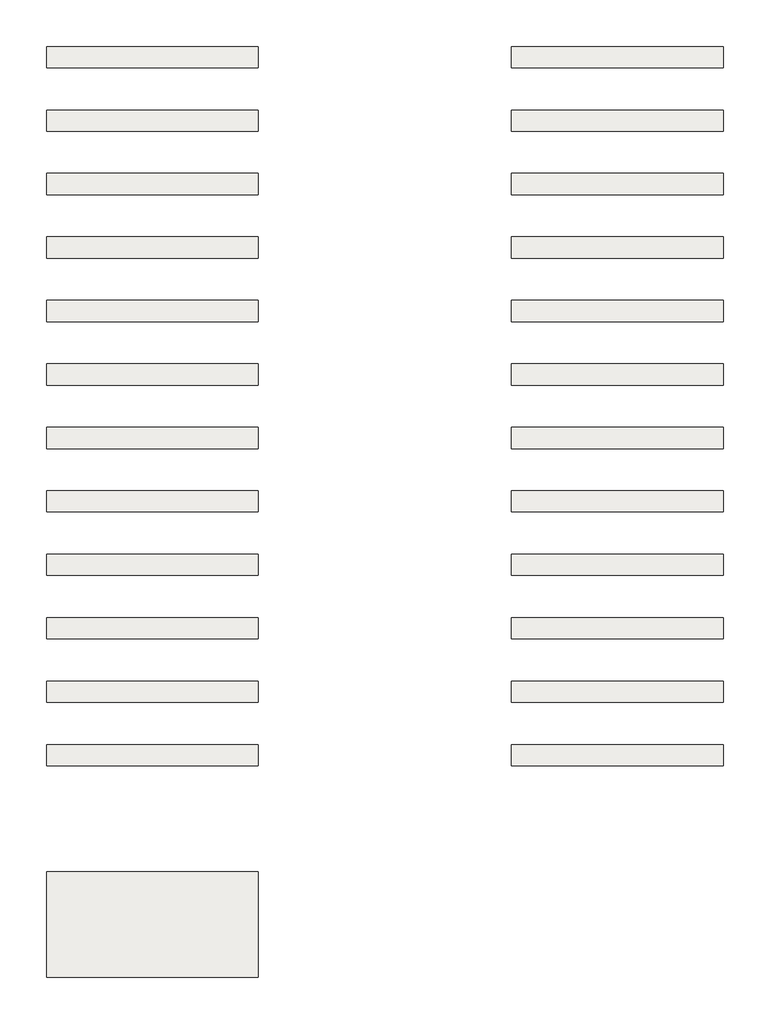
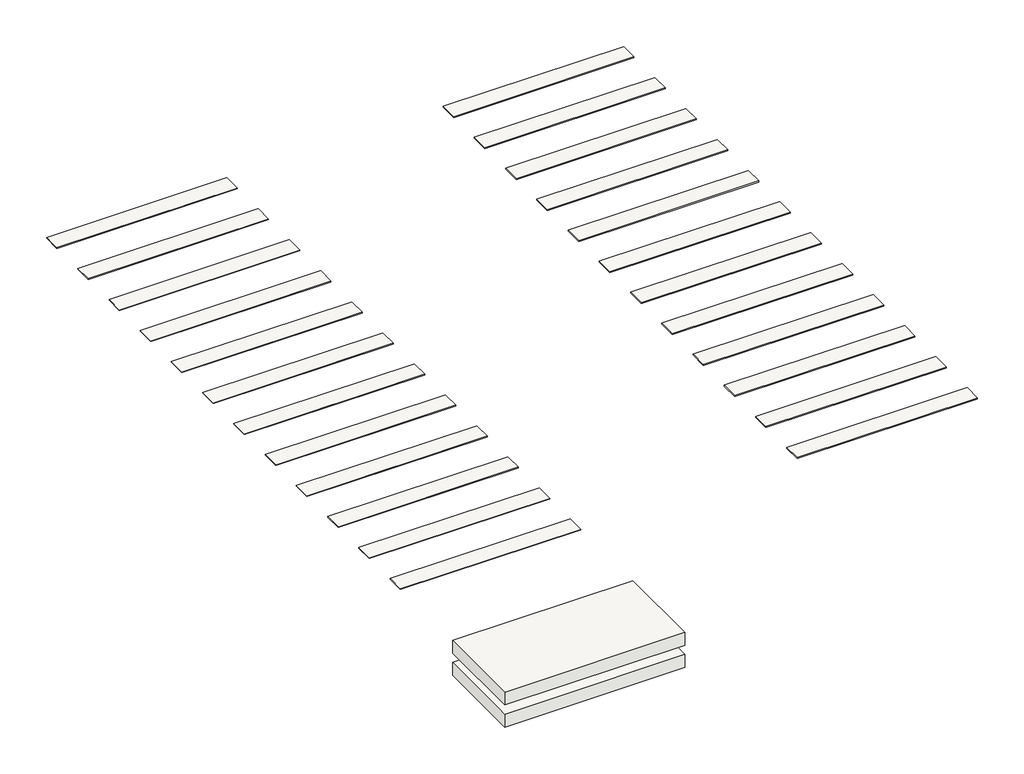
# One storey: 26 coverings.
"""IFC4 building model written with IfcOpenShell, lengths in millimetres."""

import ifcopenshell
import ifcopenshell.guid

model = None  # the IFC model being written
_history = None  # IfcOwnerHistory: only IFC2X3 demands one
_inside = {}  # id of a spatial element -> (the spatial element, [elements in it])
_under = {}  # id of a project, library or spatial element -> (it, [spatial elements below it])
_declared = {}  # id of a project -> (the project, [libraries it declares])
_typed = {}  # id of a type object -> (the type object, [elements of that type])
_made_of = {}  # id of a material, layer set ... -> (it, [elements and type objects made of it])


def new_model(schema):
    """Start an empty IFC model of exactly this schema.

    Asked for "IFC4X3", IfcOpenShell would pick the latest addendum, in which some entities
    have other attributes; the version numbers below select the first issue.
    IFC2X3 requires an IfcOwnerHistory on every rooted entity: one is made here for all.
    """
    global model, _history
    if schema == "IFC4X3":
        model = ifcopenshell.file(schema_version=(4, 3, 0, 0))
    else:
        model = ifcopenshell.file(schema=schema)
    _inside.clear()
    _under.clear()
    _declared.clear()
    _typed.clear()
    _made_of.clear()
    _history = None
    if model.schema == "IFC2X3":
        org = make("IfcOrganization", Name="unknown")
        user = make(
            "IfcPersonAndOrganization",
            ThePerson=make("IfcPerson", FamilyName="unknown"),
            TheOrganization=org,
        )
        app = make(
            "IfcApplication",
            ApplicationDeveloper=org,
            Version="unknown",
            ApplicationFullName="unknown",
            ApplicationIdentifier="unknown",
        )
        _history = make(
            "IfcOwnerHistory",
            OwningUser=user,
            OwningApplication=app,
            ChangeAction="ADDED",
            CreationDate=0,
        )
    return model


def make(cls, **values):
    """One entity of the class cls with the attributes given. An attribute that is None is left unset."""
    return model.create_entity(
        cls, **{name: value for name, value in values.items() if value is not None}
    )


def rooted(cls, **values):
    """An entity with a GlobalId (a new one), such as an element, a storey or a relation."""
    return make(cls, GlobalId=ifcopenshell.guid.new(), OwnerHistory=_history, **values)


def si_unit(unit_type, name, prefix=None):
    """IfcSIUnit, for example si_unit("LENGTHUNIT", "METRE", prefix="MILLI")."""
    return make("IfcSIUnit", UnitType=unit_type, Prefix=prefix, Name=name)


def assignment(units):
    """IfcUnitAssignment: the units of a project."""
    return None if units is None else make("IfcUnitAssignment", Units=units)


def point(xyz):
    """IfcCartesianPoint."""
    return None if xyz is None else make("IfcCartesianPoint", Coordinates=xyz)


def direction(xyz):
    """IfcDirection."""
    return None if xyz is None else make("IfcDirection", DirectionRatios=xyz)


def frame(location, z_axis=None, x_axis=None):
    """IfcAxis2Placement3D, a coordinate frame: its origin and axes. An axis left out is left unset."""
    return make(
        "IfcAxis2Placement3D",
        Location=point(location),
        Axis=direction(z_axis),
        RefDirection=direction(x_axis),
    )


def origin():
    """The frame at (0, 0, 0) with its axes left unset."""
    return frame((0.0, 0.0, 0.0))


def place(relative_to, where):
    """IfcLocalPlacement: puts the frame where relative to a parent placement (None: the world)."""
    return make(
        "IfcLocalPlacement", PlacementRelTo=relative_to, RelativePlacement=where
    )


def context(
    kind, dimensions, precision=None, world=None, true_north=None, identifier=None
):
    """IfcGeometricRepresentationContext, for example the 3D "Model" context."""
    return make(
        "IfcGeometricRepresentationContext",
        ContextIdentifier=identifier,
        ContextType=kind,
        CoordinateSpaceDimension=dimensions,
        Precision=precision,
        WorldCoordinateSystem=world,
        TrueNorth=true_north,
    )


def project(units=None, contexts=None):
    """IfcProject with its units and contexts."""
    return rooted(
        "IfcProject",
        Name="project",
        RepresentationContexts=contexts,
        UnitsInContext=assignment(units),
    )


def spatial(cls, under=None, at=None, **own):
    """A site, building, storey or space (cls), placed at a placement, below another one or the project."""
    s = rooted(cls, ObjectPlacement=at, **own)
    if under is not None:
        _under.setdefault(under.id(), (under, []))[1].append(s)
    return s


def polyline(points):
    """IfcPolyline through the points."""
    return make("IfcPolyline", Points=[point(p) for p in points])


def outline(outer, holes=None, kind="AREA"):
    """IfcArbitraryClosedProfileDef: a profile drawn as a closed curve; with holes, ...WithVoids."""
    if holes is None:
        return make("IfcArbitraryClosedProfileDef", ProfileType=kind, OuterCurve=outer)
    return make(
        "IfcArbitraryProfileDefWithVoids",
        ProfileType=kind,
        OuterCurve=outer,
        InnerCurves=holes,
    )


def extrude(swept, where, along, depth):
    """IfcExtrudedAreaSolid: the profile swept, set in the frame where, extruded along a direction by depth."""
    return make(
        "IfcExtrudedAreaSolid",
        SweptArea=swept,
        Position=where,
        ExtrudedDirection=direction(along),
        Depth=depth,
    )


def shape(context_of_items, identifier, shape_type, items):
    """IfcShapeRepresentation: the items that make up one representation, for example the "Body"."""
    return make(
        "IfcShapeRepresentation",
        ContextOfItems=context_of_items,
        RepresentationIdentifier=identifier,
        RepresentationType=shape_type,
        Items=items,
    )


def made_of(thing, what):
    """Note that an element or type object is made of a material, layer set ...; save() writes the relation."""
    if what is not None:
        _made_of.setdefault(what.id(), (what, []))[1].append(thing)
    return thing


def element(
    cls,
    number,
    at=None,
    inside=None,
    cuts=None,
    type_object=None,
    material=None,
    context=None,
    identifier="Body",
    shape_type=None,
    held_by="IfcProductDefinitionShape",
    body=None,
    shapes=None,
    **own,
):
    """One element of the class cls, such as IfcWall. Its Tag is "e" and its number.

    at: its placement. inside: the storey or other place that contains it. cuts: it is an
    opening in that element (IfcRelVoidsElement). A single representation is given by context,
    identifier, shape_type and body (its items); several are given by shapes. held_by: the class
    of the entity that holds the representations. save() writes the other relations.
    """
    e = rooted(cls, Tag="e%d" % number, ObjectPlacement=at, **own)
    if body is not None:
        shapes = [shape(context, identifier, shape_type, body)]
    if shapes is not None:
        e.Representation = make(held_by, Representations=shapes)
    if inside is not None:
        _inside.setdefault(inside.id(), (inside, []))[1].append(e)
    if cuts is not None:
        rooted(
            "IfcRelVoidsElement", RelatingBuildingElement=cuts, RelatedOpeningElement=e
        )
    if type_object is not None:
        _typed.setdefault(type_object.id(), (type_object, []))[1].append(e)
    return made_of(e, material)


def aggregate(whole, parts):
    """IfcRelAggregates: a whole, such as a stair, and the parts it consists of."""
    return rooted("IfcRelAggregates", RelatingObject=whole, RelatedObjects=parts)


def save(model, path):
    """Write the relations noted so far, then the file.

    IfcRelAggregates (storeys below a building ...), IfcRelContainedInSpatialStructure (elements
    in a storey), IfcRelDefinesByType, IfcRelAssociatesMaterial and IfcRelDeclares: one each for
    every whole, place, type object, material and project.
    """
    for whole, parts in _under.values():
        aggregate(whole, parts)
    for where, things in _inside.values():
        rooted(
            "IfcRelContainedInSpatialStructure",
            RelatedElements=things,
            RelatingStructure=where,
        )
    for kind, things in _typed.values():
        rooted("IfcRelDefinesByType", RelatedObjects=things, RelatingType=kind)
    for what, things in _made_of.values():
        rooted("IfcRelAssociatesMaterial", RelatedObjects=things, RelatingMaterial=what)
    for by, libraries in _declared.values():
        rooted("IfcRelDeclares", RelatingContext=by, RelatedDefinitions=libraries)
    model.write(path)


model = new_model("IFC4")

# Units and contexts
model_context = context("Model", 3, world=origin())
ifc_project = project(units=[si_unit("LENGTHUNIT", "METRE", prefix="MILLI")], contexts=[model_context])

# Site, building, storey
site = spatial("IfcSite", under=ifc_project)
building = spatial("IfcBuilding", under=site)
storey = spatial("IfcBuildingStorey", under=building, Name="Sika® Ucrete® CS10 en sustrato", Elevation=0.0)

# Coverings
placement = place(None, origin())
element("IfcCovering", 1, ObjectType="Sika® Ucrete® CS10 4 mm en suelo de hormigón", at=placement, inside=storey, context=model_context, shape_type="SweptSolid", body=[
    extrude(outline(polyline([(2928.6266869, 3777.4105026), (2928.6266869, 3277.4105026), (1928.6266869, 3277.4105026), (1928.6266869, 3777.4105026), (2928.6266869, 3777.4105026)])), frame((0.0, 0.0, -74.0), z_axis=(0.0, 0.0, 1.0), x_axis=(1.0, 0.0, 0.0)), (0.0, 0.0, 1.0), 74.0),
])
element("IfcCovering", 2, ObjectType="Sika® Ucrete® CS10 4 mm (Cream)", at=placement, inside=storey, context=model_context, shape_type="SweptSolid", body=[
    extrude(outline(polyline([(2928.6266869, 6477.4105026), (2928.6266869, 6377.4105026), (1928.6266869, 6377.4105026), (1928.6266869, 6477.4105026), (2928.6266869, 6477.4105026)])), frame((0.0, 0.0, -4.0), z_axis=(0.0, 0.0, 1.0), x_axis=(1.0, 0.0, 0.0)), (0.0, 0.0, 1.0), 4.0),
])
element("IfcCovering", 3, ObjectType="Sika® Ucrete® CS10 4 mm (Bright Yellow)", at=placement, inside=storey, context=model_context, shape_type="SweptSolid", body=[
    extrude(outline(polyline([(2928.6266869, 6777.4105026), (2928.6266869, 6677.4105026), (1928.6266869, 6677.4105026), (1928.6266869, 6777.4105026), (2928.6266869, 6777.4105026)])), frame((0.0, 0.0, -4.0), z_axis=(0.0, 0.0, 1.0), x_axis=(1.0, 0.0, 0.0)), (0.0, 0.0, 1.0), 4.0),
])
element("IfcCovering", 4, ObjectType="Sika® Ucrete® CS10 4 mm (Yellow)", at=placement, inside=storey, context=model_context, shape_type="SweptSolid", body=[
    extrude(outline(polyline([(2928.6266869, 7077.4105026), (2928.6266869, 6977.4105026), (1928.6266869, 6977.4105026), (1928.6266869, 7077.4105026), (2928.6266869, 7077.4105026)])), frame((0.0, 0.0, -4.0), z_axis=(0.0, 0.0, 1.0), x_axis=(1.0, 0.0, 0.0)), (0.0, 0.0, 1.0), 4.0),
])
element("IfcCovering", 5, ObjectType="Sika® Ucrete® CS10 4 mm (Orange)", at=placement, inside=storey, context=model_context, shape_type="SweptSolid", body=[
    extrude(outline(polyline([(2928.6266869, 7377.4105026), (2928.6266869, 7277.4105026), (1928.6266869, 7277.4105026), (1928.6266869, 7377.4105026), (2928.6266869, 7377.4105026)])), frame((0.0, 0.0, -4.0), z_axis=(0.0, 0.0, 1.0), x_axis=(1.0, 0.0, 0.0)), (0.0, 0.0, 1.0), 4.0),
])
element("IfcCovering", 6, ObjectType="Sika® Ucrete® CS10 4 mm (Red)", at=placement, inside=storey, context=model_context, shape_type="SweptSolid", body=[
    extrude(outline(polyline([(2928.6266869, 7677.4105026), (2928.6266869, 7577.4105026), (1928.6266869, 7577.4105026), (1928.6266869, 7677.4105026), (2928.6266869, 7677.4105026)])), frame((0.0, 0.0, -4.0), z_axis=(0.0, 0.0, 1.0), x_axis=(1.0, 0.0, 0.0)), (0.0, 0.0, 1.0), 4.0),
])
element("IfcCovering", 7, ObjectType="Sika® Ucrete® CS10 6 mm en sustrato", at=placement, inside=storey, context=model_context, shape_type="SweptSolid", body=[
    extrude(outline(polyline([(2928.6266869, 3777.4105026), (2928.6266869, 3277.4105026), (1928.6266869, 3277.4105026), (1928.6266869, 3777.4105026), (2928.6266869, 3777.4105026)])), frame((0.0, 0.0, -204.75), z_axis=(0.0, 0.0, 1.0), x_axis=(1.0, 0.0, 0.0)), (0.0, 0.0, 1.0), 76.0),
])
element("IfcCovering", 8, ObjectType="Sika® Ucrete® CS10 4 mm (Grey)", at=placement, inside=storey, context=model_context, shape_type="SweptSolid", body=[
    extrude(outline(polyline([(2928.6266869, 6177.4105026), (2928.6266869, 6077.4105026), (1928.6266869, 6077.4105026), (1928.6266869, 6177.4105026), (2928.6266869, 6177.4105026)])), frame((0.0, 0.0, -4.0), z_axis=(0.0, 0.0, 1.0), x_axis=(1.0, 0.0, 0.0)), (0.0, 0.0, 1.0), 4.0),
])
element("IfcCovering", 9, ObjectType="Sika® Ucrete® CS10 4 mm (Light Grey)", at=placement, inside=storey, context=model_context, shape_type="SweptSolid", body=[
    extrude(outline(polyline([(2928.6266869, 5877.4105026), (2928.6266869, 5777.4105026), (1928.6266869, 5777.4105026), (1928.6266869, 5877.4105026), (2928.6266869, 5877.4105026)])), frame((0.0, 0.0, -4.0), z_axis=(0.0, 0.0, 1.0), x_axis=(1.0, 0.0, 0.0)), (0.0, 0.0, 1.0), 4.0),
])
element("IfcCovering", 10, ObjectType="Sika® Ucrete® CS10 4 mm (Green)", at=placement, inside=storey, context=model_context, shape_type="SweptSolid", body=[
    extrude(outline(polyline([(2928.6266869, 5577.4105026), (2928.6266869, 5477.4105026), (1928.6266869, 5477.4105026), (1928.6266869, 5577.4105026), (2928.6266869, 5577.4105026)])), frame((0.0, 0.0, -4.0), z_axis=(0.0, 0.0, 1.0), x_axis=(1.0, 0.0, 0.0)), (0.0, 0.0, 1.0), 4.0),
])
element("IfcCovering", 11, ObjectType="Sika® Ucrete® CS10 4 mm (Light Green)", at=placement, inside=storey, context=model_context, shape_type="SweptSolid", body=[
    extrude(outline(polyline([(2928.6266869, 5277.4105026), (2928.6266869, 5177.4105026), (1928.6266869, 5177.4105026), (1928.6266869, 5277.4105026), (2928.6266869, 5277.4105026)])), frame((0.0, 0.0, -4.0), z_axis=(0.0, 0.0, 1.0), x_axis=(1.0, 0.0, 0.0)), (0.0, 0.0, 1.0), 4.0),
])
element("IfcCovering", 12, ObjectType="Sika® Ucrete® CS10 4 mm (Green/Brown)", at=placement, inside=storey, context=model_context, shape_type="SweptSolid", body=[
    extrude(outline(polyline([(2928.6266869, 4977.4105026), (2928.6266869, 4877.4105026), (1928.6266869, 4877.4105026), (1928.6266869, 4977.4105026), (2928.6266869, 4977.4105026)])), frame((0.0, 0.0, -4.0), z_axis=(0.0, 0.0, 1.0), x_axis=(1.0, 0.0, 0.0)), (0.0, 0.0, 1.0), 4.0),
])
element("IfcCovering", 13, ObjectType="Sika® Ucrete® CS10 6 mm (Cream)", at=placement, inside=storey, context=model_context, shape_type="SweptSolid", body=[
    extrude(outline(polyline([(5128.6266869, 6477.4105026), (5128.6266869, 6377.4105026), (4128.6266869, 6377.4105026), (4128.6266869, 6477.4105026), (5128.6266869, 6477.4105026)])), frame((0.0, 0.0, -6.0), z_axis=(0.0, 0.0, 1.0), x_axis=(1.0, 0.0, 0.0)), (0.0, 0.0, 1.0), 6.0),
])
element("IfcCovering", 14, ObjectType="Sika® Ucrete® CS10 6 mm (Bright Yellow)", at=placement, inside=storey, context=model_context, shape_type="SweptSolid", body=[
    extrude(outline(polyline([(5128.6266869, 6777.4105026), (5128.6266869, 6677.4105026), (4128.6266869, 6677.4105026), (4128.6266869, 6777.4105026), (5128.6266869, 6777.4105026)])), frame((0.0, 0.0, -6.0), z_axis=(0.0, 0.0, 1.0), x_axis=(1.0, 0.0, 0.0)), (0.0, 0.0, 1.0), 6.0),
])
element("IfcCovering", 15, ObjectType="Sika® Ucrete® CS10 6 mm (Yellow)", at=placement, inside=storey, context=model_context, shape_type="SweptSolid", body=[
    extrude(outline(polyline([(5128.6266869, 7077.4105026), (5128.6266869, 6977.4105026), (4128.6266869, 6977.4105026), (4128.6266869, 7077.4105026), (5128.6266869, 7077.4105026)])), frame((0.0, 0.0, -6.0), z_axis=(0.0, 0.0, 1.0), x_axis=(1.0, 0.0, 0.0)), (0.0, 0.0, 1.0), 6.0),
])
element("IfcCovering", 16, ObjectType="Sika® Ucrete® CS10 6 mm (Orange)", at=placement, inside=storey, context=model_context, shape_type="SweptSolid", body=[
    extrude(outline(polyline([(5128.6266869, 7377.4105026), (5128.6266869, 7277.4105026), (4128.6266869, 7277.4105026), (4128.6266869, 7377.4105026), (5128.6266869, 7377.4105026)])), frame((0.0, 0.0, -6.0), z_axis=(0.0, 0.0, 1.0), x_axis=(1.0, 0.0, 0.0)), (0.0, 0.0, 1.0), 6.0),
])
element("IfcCovering", 17, ObjectType="Sika® Ucrete® CS10 6 mm (Red)", at=placement, inside=storey, context=model_context, shape_type="SweptSolid", body=[
    extrude(outline(polyline([(5128.6266869, 7677.4105026), (5128.6266869, 7577.4105026), (4128.6266869, 7577.4105026), (4128.6266869, 7677.4105026), (5128.6266869, 7677.4105026)])), frame((0.0, 0.0, -6.0), z_axis=(0.0, 0.0, 1.0), x_axis=(1.0, 0.0, 0.0)), (0.0, 0.0, 1.0), 6.0),
])
element("IfcCovering", 18, ObjectType="Sika® Ucrete® CS10 6 mm (Grey)", at=placement, inside=storey, context=model_context, shape_type="SweptSolid", body=[
    extrude(outline(polyline([(5128.6266869, 6177.4105026), (5128.6266869, 6077.4105026), (4128.6266869, 6077.4105026), (4128.6266869, 6177.4105026), (5128.6266869, 6177.4105026)])), frame((0.0, 0.0, -6.0), z_axis=(0.0, 0.0, 1.0), x_axis=(1.0, 0.0, 0.0)), (0.0, 0.0, 1.0), 6.0),
])
element("IfcCovering", 19, ObjectType="Sika® Ucrete® CS10 6 mm (Light Grey)", at=placement, inside=storey, context=model_context, shape_type="SweptSolid", body=[
    extrude(outline(polyline([(5128.6266869, 5877.4105026), (5128.6266869, 5777.4105026), (4128.6266869, 5777.4105026), (4128.6266869, 5877.4105026), (5128.6266869, 5877.4105026)])), frame((0.0, 0.0, -6.0), z_axis=(0.0, 0.0, 1.0), x_axis=(1.0, 0.0, 0.0)), (0.0, 0.0, 1.0), 6.0),
])
element("IfcCovering", 20, ObjectType="Sika® Ucrete® CS10 6 mm (Green)", at=placement, inside=storey, context=model_context, shape_type="SweptSolid", body=[
    extrude(outline(polyline([(5128.6266869, 5577.4105026), (5128.6266869, 5477.4105026), (4128.6266869, 5477.4105026), (4128.6266869, 5577.4105026), (5128.6266869, 5577.4105026)])), frame((0.0, 0.0, -6.0), z_axis=(0.0, 0.0, 1.0), x_axis=(1.0, 0.0, 0.0)), (0.0, 0.0, 1.0), 6.0),
])
element("IfcCovering", 21, ObjectType="Sika® Ucrete® CS10 6 mm (Green/Brown)", at=placement, inside=storey, context=model_context, shape_type="SweptSolid", body=[
    extrude(outline(polyline([(5128.6266869, 4977.4105026), (5128.6266869, 4877.4105026), (4128.6266869, 4877.4105026), (4128.6266869, 4977.4105026), (5128.6266869, 4977.4105026)])), frame((0.0, 0.0, -6.0), z_axis=(0.0, 0.0, 1.0), x_axis=(1.0, 0.0, 0.0)), (0.0, 0.0, 1.0), 6.0),
])
element("IfcCovering", 22, ObjectType="Sika® Ucrete® CS10 6 mm (Blue)", at=placement, inside=storey, context=model_context, shape_type="SweptSolid", body=[
    extrude(outline(polyline([(5128.6266869, 4677.4105026), (5128.6266869, 4577.4105026), (4128.6266869, 4577.4105026), (4128.6266869, 4677.4105026), (5128.6266869, 4677.4105026)])), frame((0.0, 0.0, -6.0), z_axis=(0.0, 0.0, 1.0), x_axis=(1.0, 0.0, 0.0)), (0.0, 0.0, 1.0), 6.0),
])
element("IfcCovering", 23, ObjectType="Sika® Ucrete® CS10 4 mm (Blue)", at=placement, inside=storey, context=model_context, shape_type="SweptSolid", body=[
    extrude(outline(polyline([(2928.6266869, 4677.4105026), (2928.6266869, 4577.4105026), (1928.6266869, 4577.4105026), (1928.6266869, 4677.4105026), (2928.6266869, 4677.4105026)])), frame((0.0, 0.0, -4.0), z_axis=(0.0, 0.0, 1.0), x_axis=(1.0, 0.0, 0.0)), (0.0, 0.0, 1.0), 4.0),
])
element("IfcCovering", 24, ObjectType="Sika® Ucrete® CS10 6 mm (Light Green)", at=placement, inside=storey, context=model_context, shape_type="SweptSolid", body=[
    extrude(outline(polyline([(5128.6266869, 5277.4105026), (5128.6266869, 5177.4105026), (4128.6266869, 5177.4105026), (4128.6266869, 5277.4105026), (5128.6266869, 5277.4105026)])), frame((0.0, 0.0, -6.0), z_axis=(0.0, 0.0, 1.0), x_axis=(1.0, 0.0, 0.0)), (0.0, 0.0, 1.0), 6.0),
])
element("IfcCovering", 25, ObjectType="Sika® Ucrete® CS10 4 mm (Light Blue)", at=placement, inside=storey, context=model_context, shape_type="SweptSolid", body=[
    extrude(outline(polyline([(2928.6266869, 4377.4105026), (2928.6266869, 4277.4105026), (1928.6266869, 4277.4105026), (1928.6266869, 4377.4105026), (2928.6266869, 4377.4105026)])), frame((0.0, 0.0, -4.0), z_axis=(0.0, 0.0, 1.0), x_axis=(1.0, 0.0, 0.0)), (0.0, 0.0, 1.0), 4.0),
])
element("IfcCovering", 26, ObjectType="Sika® Ucrete® CS10 6 mm (Light Blue)", at=placement, inside=storey, context=model_context, shape_type="SweptSolid", body=[
    extrude(outline(polyline([(5128.6266869, 4377.4105026), (5128.6266869, 4277.4105026), (4128.6266869, 4277.4105026), (4128.6266869, 4377.4105026), (5128.6266869, 4377.4105026)])), frame((0.0, 0.0, -6.0), z_axis=(0.0, 0.0, 1.0), x_axis=(1.0, 0.0, 0.0)), (0.0, 0.0, 1.0), 6.0),
])

save(model, "model.ifc")
